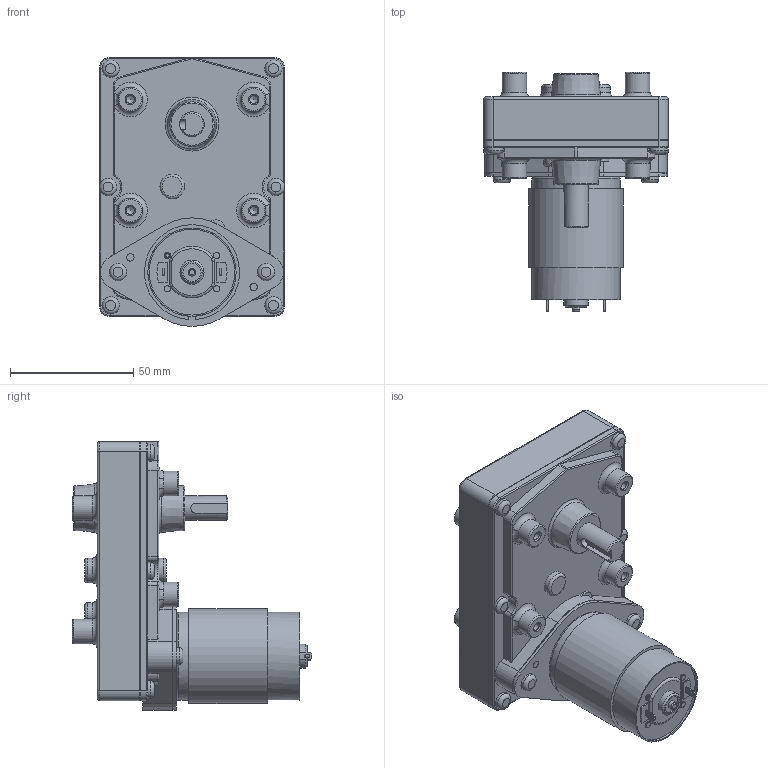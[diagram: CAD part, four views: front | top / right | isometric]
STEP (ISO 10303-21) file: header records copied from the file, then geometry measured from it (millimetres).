
FILE_DESCRIPTION(/* description */ (''),/* implementation_level */ '2;1');
FILE_NAME(/* name */ 'TP-3850#-LG.stp',/* time_stamp */ '2023-11-01T11:50:57+09:00',/* author */ ('user'),/* organization */ (''),/* preprocessor_version */ 'ST-DEVELOPER v19.2',/* originating_system */ 'Autodesk Inventor 2024',/* authorisation */ '');
FILE_SCHEMA (('AUTOMOTIVE_DESIGN { 1 0 10303 214 3 1 1 }'));
Length unit declared in the file: millimetre
Products named in the file (3): TP-3850#-LG-J00-24; lg; TP-3850K(RS-645)
Assembly tree (2 placements, depth 2):
  TP-3850#-LG-J00-24
    lg
    TP-3850K(RS-645)
Bounding box: 75 x 96.9 x 109 mm (x, y, z)
Volume: 274318.1 mm3; surface area: 39781.6 mm2
Topology: 2 solids, 2 shells, 329 faces, 779 edges, 497 vertices
Faces by surface type: plane 125, cylinder 112, torus 63, cone 25, bspline 4
Full cylindrical faces by diameter (mm): 1.5 x1, 2.459 x2, 2.5 x5, 3 x2, 3.17 x2, 3.242 x8, 7 x8, 7.4 x1, 9 x2, 9.8 x1, 10 x11, 11 x1, 13 x1, 15 x1, 34.8 x1, 35.8 x1
Entity records: 9866 total; most frequent: DIRECTION 1818, CARTESIAN_POINT 1780, ORIENTED_EDGE 1538, EDGE_CURVE 769, AXIS2_PLACEMENT_3D 737, VERTEX_POINT 497, CIRCLE 399, EDGE_LOOP 386
